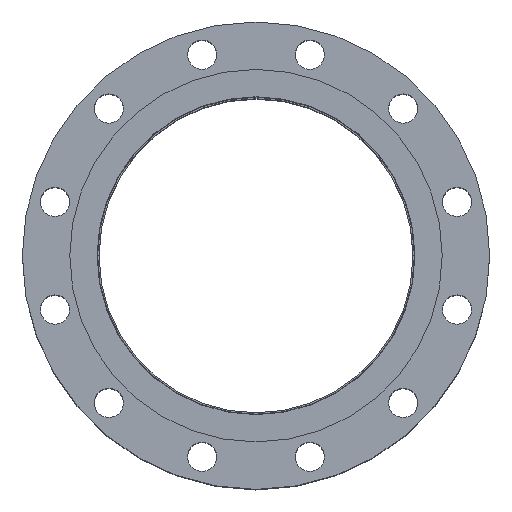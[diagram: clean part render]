
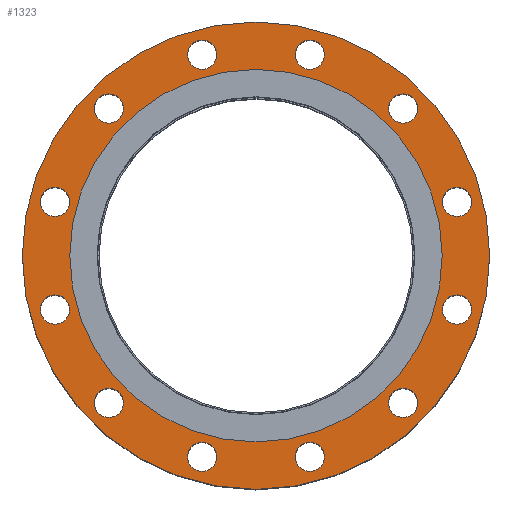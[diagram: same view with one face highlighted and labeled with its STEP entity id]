
A CAD part, top view. The second image highlights one B-rep face of the part: STEP entity #1323.
In plain terms, the highlighted planar face has unit normal (0, 0, 1).
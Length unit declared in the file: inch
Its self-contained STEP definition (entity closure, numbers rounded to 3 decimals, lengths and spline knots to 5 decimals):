
#88=FACE_BOUND('',#351,.T.);
#89=FACE_BOUND('',#352,.T.);
#90=FACE_BOUND('',#353,.T.);
#91=FACE_BOUND('',#354,.T.);
#92=FACE_BOUND('',#355,.T.);
#93=FACE_BOUND('',#356,.T.);
#94=FACE_BOUND('',#357,.T.);
#95=FACE_BOUND('',#358,.T.);
#96=FACE_BOUND('',#359,.T.);
#97=FACE_BOUND('',#360,.T.);
#98=FACE_BOUND('',#361,.T.);
#99=FACE_BOUND('',#362,.T.);
#100=FACE_BOUND('',#363,.T.);
#142=PLANE('',#1508);
#237=FACE_OUTER_BOUND('',#350,.T.);
#350=EDGE_LOOP('',(#1037));
#351=EDGE_LOOP('',(#1038));
#352=EDGE_LOOP('',(#1039));
#353=EDGE_LOOP('',(#1040));
#354=EDGE_LOOP('',(#1041));
#355=EDGE_LOOP('',(#1042));
#356=EDGE_LOOP('',(#1043));
#357=EDGE_LOOP('',(#1044));
#358=EDGE_LOOP('',(#1045));
#359=EDGE_LOOP('',(#1046));
#360=EDGE_LOOP('',(#1047));
#361=EDGE_LOOP('',(#1048));
#362=EDGE_LOOP('',(#1049));
#363=EDGE_LOOP('',(#1050));
#519=CIRCLE('',#1451,0.5);
#521=CIRCLE('',#1454,0.5);
#523=CIRCLE('',#1457,0.5);
#525=CIRCLE('',#1460,0.5);
#527=CIRCLE('',#1463,0.5);
#529=CIRCLE('',#1466,0.5);
#531=CIRCLE('',#1469,0.5);
#533=CIRCLE('',#1472,0.5);
#535=CIRCLE('',#1475,0.5);
#537=CIRCLE('',#1478,0.5);
#539=CIRCLE('',#1481,0.5);
#541=CIRCLE('',#1484,0.5);
#554=CIRCLE('',#1503,6.375);
#556=CIRCLE('',#1507,8.);
#667=VERTEX_POINT('',#2266);
#669=VERTEX_POINT('',#2272);
#671=VERTEX_POINT('',#2278);
#673=VERTEX_POINT('',#2284);
#675=VERTEX_POINT('',#2290);
#677=VERTEX_POINT('',#2296);
#679=VERTEX_POINT('',#2302);
#681=VERTEX_POINT('',#2308);
#683=VERTEX_POINT('',#2314);
#685=VERTEX_POINT('',#2320);
#687=VERTEX_POINT('',#2326);
#689=VERTEX_POINT('',#2332);
#700=VERTEX_POINT('',#2364);
#702=VERTEX_POINT('',#2371);
#779=EDGE_CURVE('',#667,#667,#519,.T.);
#782=EDGE_CURVE('',#669,#669,#521,.T.);
#785=EDGE_CURVE('',#671,#671,#523,.T.);
#788=EDGE_CURVE('',#673,#673,#525,.T.);
#791=EDGE_CURVE('',#675,#675,#527,.T.);
#794=EDGE_CURVE('',#677,#677,#529,.T.);
#797=EDGE_CURVE('',#679,#679,#531,.T.);
#800=EDGE_CURVE('',#681,#681,#533,.T.);
#803=EDGE_CURVE('',#683,#683,#535,.T.);
#806=EDGE_CURVE('',#685,#685,#537,.T.);
#809=EDGE_CURVE('',#687,#687,#539,.T.);
#812=EDGE_CURVE('',#689,#689,#541,.T.);
#828=EDGE_CURVE('',#700,#700,#554,.T.);
#830=EDGE_CURVE('',#702,#702,#556,.T.);
#1037=ORIENTED_EDGE('',*,*,#830,.T.);
#1038=ORIENTED_EDGE('',*,*,#779,.T.);
#1039=ORIENTED_EDGE('',*,*,#782,.T.);
#1040=ORIENTED_EDGE('',*,*,#785,.T.);
#1041=ORIENTED_EDGE('',*,*,#788,.T.);
#1042=ORIENTED_EDGE('',*,*,#791,.T.);
#1043=ORIENTED_EDGE('',*,*,#794,.T.);
#1044=ORIENTED_EDGE('',*,*,#797,.T.);
#1045=ORIENTED_EDGE('',*,*,#800,.T.);
#1046=ORIENTED_EDGE('',*,*,#803,.T.);
#1047=ORIENTED_EDGE('',*,*,#806,.T.);
#1048=ORIENTED_EDGE('',*,*,#809,.T.);
#1049=ORIENTED_EDGE('',*,*,#812,.T.);
#1050=ORIENTED_EDGE('',*,*,#828,.T.);
#1323=ADVANCED_FACE('',(#237,#88,#89,#90,#91,#92,#93,#94,#95,#96,#97,#98,
#99,#100),#142,.T.);
#1451=AXIS2_PLACEMENT_3D('',#2267,#1719,#1720);
#1454=AXIS2_PLACEMENT_3D('',#2273,#1726,#1727);
#1457=AXIS2_PLACEMENT_3D('',#2279,#1733,#1734);
#1460=AXIS2_PLACEMENT_3D('',#2285,#1740,#1741);
#1463=AXIS2_PLACEMENT_3D('',#2291,#1747,#1748);
#1466=AXIS2_PLACEMENT_3D('',#2297,#1754,#1755);
#1469=AXIS2_PLACEMENT_3D('',#2303,#1761,#1762);
#1472=AXIS2_PLACEMENT_3D('',#2309,#1768,#1769);
#1475=AXIS2_PLACEMENT_3D('',#2315,#1775,#1776);
#1478=AXIS2_PLACEMENT_3D('',#2321,#1782,#1783);
#1481=AXIS2_PLACEMENT_3D('',#2327,#1789,#1790);
#1484=AXIS2_PLACEMENT_3D('',#2333,#1796,#1797);
#1503=AXIS2_PLACEMENT_3D('',#2366,#1837,#1838);
#1507=AXIS2_PLACEMENT_3D('',#2372,#1845,#1846);
#1508=AXIS2_PLACEMENT_3D('',#2374,#1848,#1849);
#1719=DIRECTION('center_axis',(0.,0.,-1.));
#1720=DIRECTION('ref_axis',(0.866,-0.5,0.));
#1726=DIRECTION('center_axis',(0.,0.,-1.));
#1727=DIRECTION('ref_axis',(0.5,-0.866,0.));
#1733=DIRECTION('center_axis',(0.,0.,-1.));
#1734=DIRECTION('ref_axis',(0.,-1.,0.));
#1740=DIRECTION('center_axis',(0.,0.,-1.));
#1741=DIRECTION('ref_axis',(-0.5,-0.866,0.));
#1747=DIRECTION('center_axis',(0.,0.,-1.));
#1748=DIRECTION('ref_axis',(-0.866,-0.5,0.));
#1754=DIRECTION('center_axis',(0.,0.,-1.));
#1755=DIRECTION('ref_axis',(-1.,0.,0.));
#1761=DIRECTION('center_axis',(0.,0.,-1.));
#1762=DIRECTION('ref_axis',(-0.866,0.5,0.));
#1768=DIRECTION('center_axis',(0.,0.,-1.));
#1769=DIRECTION('ref_axis',(-0.5,0.866,0.));
#1775=DIRECTION('center_axis',(0.,0.,-1.));
#1776=DIRECTION('ref_axis',(0.,1.,0.));
#1782=DIRECTION('center_axis',(0.,0.,-1.));
#1783=DIRECTION('ref_axis',(0.5,0.866,0.));
#1789=DIRECTION('center_axis',(0.,0.,-1.));
#1790=DIRECTION('ref_axis',(0.866,0.5,0.));
#1796=DIRECTION('center_axis',(0.,0.,-1.));
#1797=DIRECTION('ref_axis',(1.,0.,0.));
#1837=DIRECTION('center_axis',(0.,0.,-1.));
#1838=DIRECTION('ref_axis',(0.,1.,0.));
#1845=DIRECTION('center_axis',(0.,0.,1.));
#1846=DIRECTION('ref_axis',(1.,0.,0.));
#1848=DIRECTION('center_axis',(0.,0.,1.));
#1849=DIRECTION('ref_axis',(1.,0.,0.));
#2266=CARTESIAN_POINT('',(1.41107,7.13222,0.56));
#2267=CARTESIAN_POINT('Origin',(1.84409,6.88222,0.56));
#2272=CARTESIAN_POINT('',(4.78814,5.47115,0.56));
#2273=CARTESIAN_POINT('Origin',(5.03814,5.03814,0.56));
#2278=CARTESIAN_POINT('',(6.88222,2.34409,0.56));
#2279=CARTESIAN_POINT('Origin',(6.88222,1.84409,0.56));
#2284=CARTESIAN_POINT('',(7.13222,-1.41107,0.56));
#2285=CARTESIAN_POINT('Origin',(6.88222,-1.84409,0.56));
#2290=CARTESIAN_POINT('',(5.47115,-4.78814,0.56));
#2291=CARTESIAN_POINT('Origin',(5.03814,-5.03814,0.56));
#2296=CARTESIAN_POINT('',(2.34409,-6.88222,0.56));
#2297=CARTESIAN_POINT('Origin',(1.84409,-6.88222,0.56));
#2302=CARTESIAN_POINT('',(-1.41107,-7.13222,0.56));
#2303=CARTESIAN_POINT('Origin',(-1.84409,-6.88222,0.56));
#2308=CARTESIAN_POINT('',(-4.78814,-5.47115,0.56));
#2309=CARTESIAN_POINT('Origin',(-5.03814,-5.03814,0.56));
#2314=CARTESIAN_POINT('',(-6.88222,-2.34409,0.56));
#2315=CARTESIAN_POINT('Origin',(-6.88222,-1.84409,0.56));
#2320=CARTESIAN_POINT('',(-7.13222,1.41107,0.56));
#2321=CARTESIAN_POINT('Origin',(-6.88222,1.84409,0.56));
#2326=CARTESIAN_POINT('',(-5.47115,4.78814,0.56));
#2327=CARTESIAN_POINT('Origin',(-5.03814,5.03814,0.56));
#2332=CARTESIAN_POINT('',(-2.34409,6.88222,0.56));
#2333=CARTESIAN_POINT('Origin',(-1.84409,6.88222,0.56));
#2364=CARTESIAN_POINT('',(0.,-6.375,0.56));
#2366=CARTESIAN_POINT('Origin',(0.,0.,0.56));
#2371=CARTESIAN_POINT('',(0.,-8.,0.56));
#2372=CARTESIAN_POINT('Origin',(0.,0.,0.56));
#2374=CARTESIAN_POINT('Origin',(0.,5.44,0.56));
